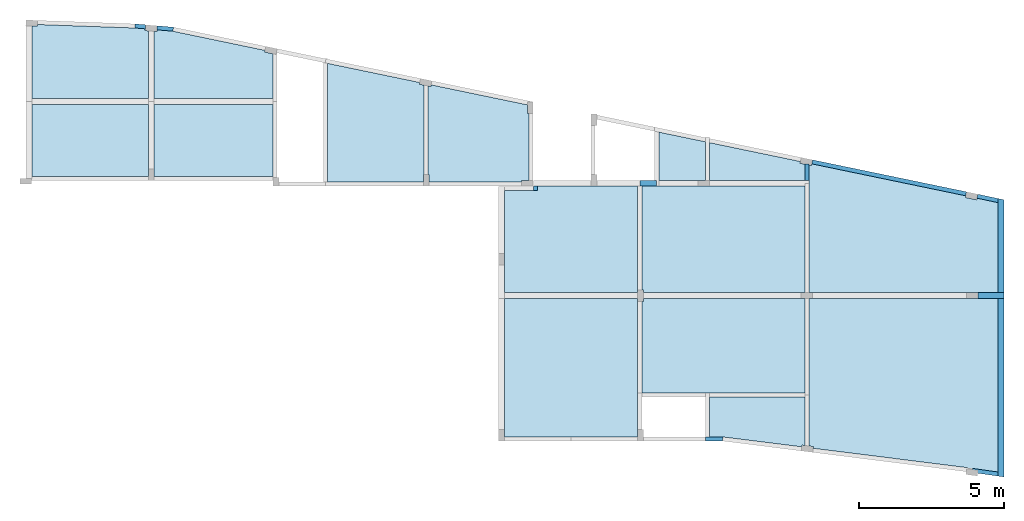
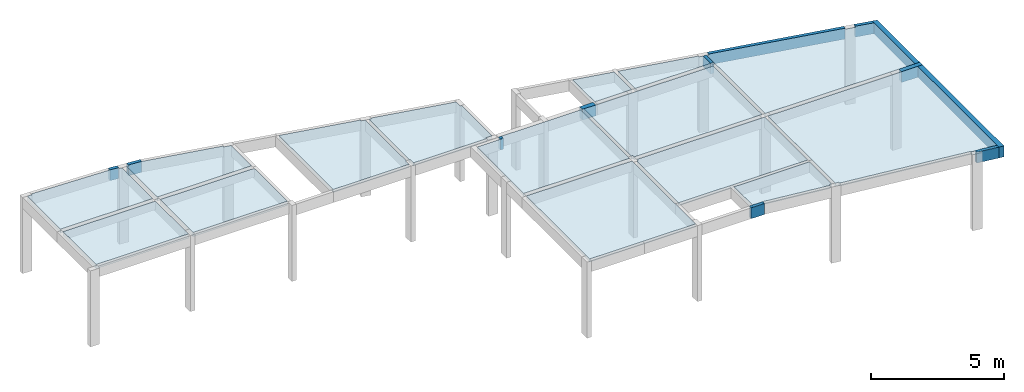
# One storey, part 2 of 2: 15 slabs, 12 beams.
"""IFC4 building model written with IfcOpenShell, lengths in centimetres."""

from ifc_helpers import new_model, si_unit, derived_unit, frame, origin, origin_with_axes, origin_2d_with_axis, place, context, project, spatial, polyline, rectangle, outline, extrude, clip, halfspace, material, element, save


model = new_model("IFC4")

# Units and contexts
model_context = context("Model", 3, precision=1e-05, world=origin_with_axes(), identifier="Body")
ifc_project = project(units=[si_unit("LENGTHUNIT", "METRE", prefix="CENTI"), si_unit("VOLUMEUNIT", "CUBIC_METRE"), si_unit("AREAUNIT", "SQUARE_METRE"), si_unit("POWERUNIT", "WATT"), si_unit("LUMINOUSFLUXUNIT", "LUMEN"), si_unit("ELECTRICCURRENTUNIT", "AMPERE"), si_unit("PRESSUREUNIT", "PASCAL", prefix="KILO"), si_unit("MASSUNIT", "GRAM", prefix="KILO"), si_unit("PLANEANGLEUNIT", "RADIAN"), derived_unit("VOLUMETRICFLOWRATEUNIT", [(si_unit("LENGTHUNIT", "METRE"), 3), (si_unit("TIMEUNIT", "SECOND"), -1)])], contexts=[model_context])

# Site, building, storey
site_placement = place(None, origin_with_axes())
site = spatial("IfcSite", under=ifc_project, at=site_placement)
building_placement = place(site_placement, origin())
building = spatial("IfcBuilding", under=site, at=building_placement)
placement_1 = place(building_placement, origin_with_axes())
placement_2 = place(placement_1, frame((0.0, 0.0, 550.0), z_axis=(0.0, 0.0, 1.0), x_axis=(1.0, 0.0, 0.0)))
placement_3 = place(placement_2, frame((0.0, 0.0, 350.0), z_axis=(0.0, 0.0, 1.0), x_axis=(1.0, 0.0, 0.0)))
placement_4 = place(placement_3, frame((0.0, 0.0, 350.0), z_axis=(0.0, 0.0, 1.0), x_axis=(1.0, 0.0, 0.0)))
storey_placement = place(placement_4, frame((0.0, 0.0, 350.0), z_axis=(0.0, 0.0, 1.0), x_axis=(1.0, 0.0, 0.0)))
storey = spatial("IfcBuildingStorey", under=building, at=storey_placement, Name="3º PAV.", CompositionType="ELEMENT", Elevation=1600.0)

# Beams
ifc_material = material(Name="Concreto")
beam_1_placement = place(storey_placement, frame((2781.96, -473.795, 0.0), z_axis=(0.0, 0.0, 1.0), x_axis=(1.0, 0.0, 0.0)))
element("IfcBeam", 1, at=beam_1_placement, inside=storey, material=ifc_material, Name="V14", context=model_context, shape_type="SolidModel", body=[
    extrude(rectangle(XDim=14.0, YDim=50.0, at=origin_2d_with_axis()), frame((0.0, -7.895, -25.0), z_axis=(0.0, 1.0, 0.0), x_axis=(1.0, 0.0, 0.0)), (0.0, 0.0, 1.0), 15.79),
])
beam_2_placement = place(storey_placement, frame((3716.6, -418.10970030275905, 0.0), z_axis=(0.0, 0.0, 1.0), x_axis=(1.0, 0.0, 0.0)))
element("IfcBeam", 2, at=beam_2_placement, inside=storey, material=ifc_material, Name="V21", context=model_context, shape_type="SolidModel", body=[
    extrude(rectangle(XDim=14.0, YDim=50.0, at=origin_2d_with_axis()), frame((0.0, -27.79029969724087, -25.0), z_axis=(0.0, 1.0, 0.0), x_axis=(1.0, 0.0, 0.0)), (0.0, 0.0, 1.0), 55.580599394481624),
])
beam_3_placement = place(storey_placement, frame((4385.6, -670.8927270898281, 0.0), z_axis=(0.0, 0.0, 1.0), x_axis=(1.0, 0.0, 0.0)))
element("IfcBeam", 3, at=beam_3_placement, inside=storey, material=ifc_material, Name="V22", context=model_context, shape_type="Clipping", body=[
    clip(extrude(rectangle(XDim=20.0, YDim=50.0, at=origin_2d_with_axis()), frame((0.0, -162.20727291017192, -25.0), z_axis=(0.0, 1.0, 0.0), x_axis=(1.0, 0.0, 0.0)), (0.0, 0.0, 1.0), 324.4145458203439), halfspace(frame((-10.0, 162.20727291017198, -50.0), z_axis=(-0.210570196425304, -0.977578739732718, 0.0), x_axis=(0.0, 0.0, -0.210570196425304)), True)),
])
beam_4_placement = place(storey_placement, frame((4385.6, -1155.4798760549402, 0.0), z_axis=(0.0, 0.0, 1.0), x_axis=(1.0, 0.0, 0.0)))
element("IfcBeam", 4, at=beam_4_placement, inside=storey, material=ifc_material, Name="V22", context=model_context, shape_type="Clipping", body=[
    clip(extrude(rectangle(XDim=20.0, YDim=50.0, at=origin_2d_with_axis()), frame((0.0, -312.37987605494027, -25.0), z_axis=(0.0, 1.0, 0.0), x_axis=(1.0, 0.0, 0.0)), (0.0, 0.0, 1.0), 624.7597521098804), halfspace(frame((-10.0, -309.55894494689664, 0.0), z_axis=(0.139664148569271, 0.990198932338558, 0.0), x_axis=(0.0, 0.0, 0.139664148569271)), True)),
])
beam_5_placement = place(storey_placement, frame((1505.3493357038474, 77.27788294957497, 0.0), z_axis=(0.0, 0.0, 1.0), x_axis=(1.0, 0.0, 0.0)))
element("IfcBeam", 5, at=beam_5_placement, inside=storey, material=ifc_material, Name="V23", context=model_context, shape_type="Clipping", body=[
    clip(extrude(rectangle(XDim=14.0, YDim=50.0, at=origin_2d_with_axis()), frame((-28.0693357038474, 2.362117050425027, -25.0), z_axis=(0.99637095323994, -0.085117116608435, 0.0), x_axis=(0.085117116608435, 0.99637095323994, 0.0)), (0.0, 0.0, 1.0), 56.343143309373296), halfspace(frame((28.66515552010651, 4.540947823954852, -50.0), z_axis=(-0.989480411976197, 0.144666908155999, 0.0), x_axis=(0.0, 0.0, -0.059920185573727)), True)),
])
beam_6_placement = place(storey_placement, frame((1419.3262803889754, 84.60237581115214, 0.0), z_axis=(0.0, 0.0, 1.0), x_axis=(1.0, 0.0, 0.0)))
element("IfcBeam", 6, at=beam_6_placement, inside=storey, material=ifc_material, Name="V23", context=model_context, shape_type="Clipping", body=[
    clip(extrude(rectangle(XDim=14.0, YDim=50.0, at=origin_2d_with_axis()), frame((-18.448841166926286, 1.562375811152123, -25.0), z_axis=(0.996365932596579, -0.085175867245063, 0.0), x_axis=(0.085175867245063, 0.996365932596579, 0.0)), (0.0, 0.0, 1.0), 36.68587973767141), halfspace(frame((-17.85261009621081, 8.536937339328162, 0.0), z_axis=(0.998167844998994, -0.060505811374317, 0.0), x_axis=(0.0, 0.0, -0.024733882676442)), True)),
])
beam_7_placement = place(storey_placement, frame((3999.875, -437.295, 0.0), z_axis=(0.0, 0.0, 1.0), x_axis=(1.0, 0.0, 0.0)))
element("IfcBeam", 7, at=beam_7_placement, inside=storey, material=ifc_material, Name="V24", context=model_context, shape_type="SolidModel", body=[
    extrude(rectangle(XDim=14.0, YDim=50.0, at=origin_2d_with_axis()), frame((-265.125, 55.025, -25.0), z_axis=(0.979134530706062, -0.203213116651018, 0.0), x_axis=(0.203213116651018, 0.979134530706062, 0.0)), (0.0, 0.0, 1.0), 541.5496883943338),
])
beam_8_placement = place(storey_placement, frame((4339.148004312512, -508.31175002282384, 0.0), z_axis=(0.0, 0.0, 1.0), x_axis=(1.0, 0.0, 0.0)))
element("IfcBeam", 8, at=beam_8_placement, inside=storey, material=ifc_material, Name="V24", context=model_context, shape_type="Clipping", body=[
    clip(extrude(rectangle(XDim=14.0, YDim=50.0, at=origin_2d_with_axis()), frame((-34.978004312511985, 7.851750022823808, -25.0), z_axis=(0.97757873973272, -0.210570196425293, 0.0), x_axis=(0.210570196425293, 0.97757873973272, 0.0)), (0.0, 0.0, 1.0), 74.5760810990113), halfspace(frame((36.451995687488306, -0.373704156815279, -50.0), z_axis=(-1.0, 0.0, 0.0), x_axis=(0.0, 0.0, 0.210570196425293)), True)),
])
beam_9_placement = place(storey_placement, frame((3397.217338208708, -1337.0556334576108, 0.0), z_axis=(0.0, 0.0, 1.0), x_axis=(1.0, 0.0, 0.0)))
element("IfcBeam", 9, at=beam_9_placement, inside=storey, material=ifc_material, Name="V25", context=model_context, shape_type="Clipping", body=[
    clip(extrude(rectangle(XDim=14.0, YDim=50.0, at=origin_2d_with_axis()), frame((-29.618689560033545, -0.005718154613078, -25.0), z_axis=(1.0, 0.000193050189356, 0.0), x_axis=(-0.000193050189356, 1.0, 0.0)), (0.0, 0.0, 1.0), 59.24008292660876), halfspace(frame((29.620040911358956, 7.005718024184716, -50.0), z_axis=(-0.998053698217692, 0.06236036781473, 0.0), x_axis=(0.0, 0.0, -0.062553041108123)), True)),
])
beam_10_placement = place(storey_placement, frame((4330.412911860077, -1451.7339453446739, 0.0), z_axis=(0.0, 0.0, 1.0), x_axis=(1.0, 0.0, 0.0)))
element("IfcBeam", 10, at=beam_10_placement, inside=storey, material=ifc_material, Name="V25", context=model_context, shape_type="Clipping", body=[
    clip(extrude(rectangle(XDim=14.0, YDim=50.0, at=origin_2d_with_axis()), frame((-44.20943909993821, 6.373483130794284, -25.0), z_axis=(0.990198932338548, -0.139664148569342, 0.0), x_axis=(0.139664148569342, 0.990198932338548, 0.0)), (0.0, 0.0, 1.0), 91.26870705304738), halfspace(frame((45.18708813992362, 0.833697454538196, -50.0), z_axis=(-1.0, 0.0, 0.0), x_axis=(0.0, 0.0, 0.139664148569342)), True)),
])
beam_11_placement = place(storey_placement, frame((3169.8, -455.9, 0.0), z_axis=(0.0, 0.0, 1.0), x_axis=(1.0, 0.0, 0.0)))
element("IfcBeam", 11, at=beam_11_placement, inside=storey, material=ifc_material, Name="V5", context=model_context, shape_type="SolidModel", body=[
    extrude(rectangle(XDim=20.0, YDim=50.0, at=origin_2d_with_axis()), frame((-29.2, 0.0, -25.0), z_axis=(1.0, 0.0, 0.0), x_axis=(0.0, 1.0, 0.0)), (0.0, 0.0, 1.0), 58.4),
])
beam_12_placement = place(storey_placement, frame((4350.6, -843.1, 0.0), z_axis=(0.0, 0.0, 1.0), x_axis=(1.0, 0.0, 0.0)))
element("IfcBeam", 12, at=beam_12_placement, inside=storey, material=ifc_material, Name="V6", context=model_context, shape_type="SolidModel", body=[
    extrude(rectangle(XDim=20.0, YDim=50.0, at=origin_2d_with_axis()), frame((-45.0, 0.0, -25.0), z_axis=(1.0, 0.0, 0.0), x_axis=(0.0, 1.0, 0.0)), (0.0, 0.0, 1.0), 90.0),
])

# Slabs
slab_1_placement = place(storey_placement, frame((1246.3, -36.349, 0.0), z_axis=(0.0, 0.0, 1.0), x_axis=(1.0, 0.0, 0.0)))
element("IfcSlab", 13, at=slab_1_placement, inside=storey, material=ifc_material, Name="L1", PredefinedType="FLOOR", context=model_context, shape_type="SolidModel", body=[
    extrude(outline(polyline([(200.799, 105.50265528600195), (190.009, 106.42865528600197), (190.523, 112.41465528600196), (154.33, 115.51865528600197), (-181.341, 127.53065528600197), (-181.56, 121.54865528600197), (-200.799, 122.25065528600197), (-200.799, -127.53134471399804), (200.799, -127.53134471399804), (200.799, 105.50265528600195), (200.799, 105.50265528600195)])), frame((0.0, 0.000344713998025, -20.0), z_axis=(0.0, 0.0, 1.0), x_axis=(1.0, 0.0, 0.0)), (0.0, 0.0, 1.0), 20.0),
])
slab_2_placement = place(storey_placement, frame((2903.5995, -649.4995, 0.0), z_axis=(0.0, 0.0, 1.0), x_axis=(1.0, 0.0, 0.0)))
element("IfcSlab", 14, at=slab_2_placement, inside=storey, material=ifc_material, Name="L10", PredefinedType="FLOOR", context=model_context, shape_type="SolidModel", body=[
    extrude(outline(polyline([(229.999, 183.6), (-114.64, 183.599), (-114.639, 174.81), (-121.639, 174.81), (-121.639, 167.81), (-230.0, 167.81), (-229.999, -183.599), (229.999, -183.599), (229.999, 183.6), (229.999, 183.6)])), frame((0.0005, -0.0005, -15.0), z_axis=(0.0, 0.0, 1.0), x_axis=(1.0, 0.0, 0.0)), (0.0, 0.0, 1.0), 15.0),
])
slab_3_placement = place(storey_placement, frame((3428.6, -649.5005, 0.0), z_axis=(0.0, 0.0, 1.0), x_axis=(1.0, 0.0, 0.0)))
element("IfcSlab", 15, at=slab_3_placement, inside=storey, material=ifc_material, Name="L11", PredefinedType="FLOOR", context=model_context, shape_type="SolidModel", body=[
    extrude(outline(polyline([(281.0, -183.599), (281.0, 183.599), (-280.999, 183.599), (-281.0, -174.099), (-275.0, -174.1), (-275.0, -183.6), (281.0, -183.599), (281.0, -183.599)])), frame((0.0, 0.0005, -15.0), z_axis=(0.0, 0.0, 1.0), x_axis=(1.0, 0.0, 0.0)), (0.0, 0.0, 1.0), 15.0),
])
slab_4_placement = place(storey_placement, frame((2903.5995, -1091.5995, 0.0), z_axis=(0.0, 0.0, 1.0), x_axis=(1.0, 0.0, 0.0)))
element("IfcSlab", 16, at=slab_4_placement, inside=storey, material=ifc_material, Name="L12", PredefinedType="FLOOR", context=model_context, shape_type="SolidModel", body=[
    extrude(outline(polyline([(-0.001, -238.4791287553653), (229.999, -238.4701287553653), (229.999, 238.49987124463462), (-229.999, 238.49887124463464), (-230.0, -238.4991287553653), (-0.001, -238.4791287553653), (-0.001, -238.4791287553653)])), frame((0.0005, -0.000371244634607, -15.0), z_axis=(0.0, 0.0, 1.0), x_axis=(1.0, 0.0, 0.0)), (0.0, 0.0, 1.0), 15.0),
])
slab_5_placement = place(storey_placement, frame((3428.6, -1015.5005, 0.0), z_axis=(0.0, 0.0, 1.0), x_axis=(1.0, 0.0, 0.0)))
element("IfcSlab", 17, at=slab_5_placement, inside=storey, material=ifc_material, Name="L13", PredefinedType="FLOOR", context=model_context, shape_type="SolidModel", body=[
    extrude(outline(polyline([(280.999, 162.399), (-275.0, 162.399), (-275.0, 151.899), (-281.0, 151.899), (-280.999, -162.4), (281.0, -162.4), (280.999, 162.399), (280.999, 162.399)])), frame((0.0, 0.0005, -15.0), z_axis=(0.0, 0.0, 1.0), x_axis=(1.0, 0.0, 0.0)), (0.0, 0.0, 1.0), 15.0),
])
slab_6_placement = place(storey_placement, frame((4049.6, -1152.0005, 0.0), z_axis=(0.0, 0.0, 1.0), x_axis=(1.0, 0.0, 0.0)))
element("IfcSlab", 18, at=slab_6_placement, inside=storey, material=ifc_material, Name="L14", PredefinedType="FLOOR", context=model_context, shape_type="SolidModel", body=[
    extrude(outline(polyline([(326.0, 298.9005819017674), (-325.999, 298.9005819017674), (-326.0, -209.26141809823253), (-310.65, -211.19941809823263), (-311.405, -217.17341809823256), (220.54, -284.07841809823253), (220.045, -287.98541809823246), (253.854, -292.2614180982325), (254.32, -288.78841809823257), (326.0, -298.90041809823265), (326.0, 298.9005819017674), (326.0, 298.9005819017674)])), frame((0.0, -8.1901767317e-05, -15.0), z_axis=(0.0, 0.0, 1.0), x_axis=(1.0, 0.0, 0.0)), (0.0, 0.0, 1.0), 15.0),
])
slab_7_placement = place(storey_placement, frame((3545.6, -1278.043, 0.0), z_axis=(0.0, 0.0, 1.0), x_axis=(1.0, 0.0, 0.0)))
element("IfcSlab", 19, at=slab_7_placement, inside=storey, material=ifc_material, Name="L15", PredefinedType="FLOOR", context=model_context, shape_type="SolidModel", body=[
    extrude(outline(polyline([(153.66, -80.14696897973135), (164.0, -81.45196897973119), (164.0, 86.14303102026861), (-163.999, 86.14303102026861), (-164.0, -52.01496897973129), (-119.199, -52.00596897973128), (-119.199, -59.00596897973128), (-118.33, -52.05596897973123), (152.904, -86.14296897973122), (153.66, -80.14696897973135), (153.66, -80.14696897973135)])), frame((0.0, -3.102026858e-05, -15.0), z_axis=(0.0, 0.0, 1.0), x_axis=(1.0, 0.0, 0.0)), (0.0, 0.0, 1.0), 15.0),
])
slab_8_placement = place(storey_placement, frame((1672.05, -45.608, 0.0), z_axis=(0.0, 0.0, 1.0), x_axis=(1.0, 0.0, 0.0)))
element("IfcSlab", 20, at=slab_8_placement, inside=storey, material=ifc_material, Name="L2", PredefinedType="FLOOR", context=model_context, shape_type="SolidModel", body=[
    extrude(outline(polyline([(204.95, 35.675796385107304), (175.729, 41.727796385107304), (176.942, 47.58879638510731), (-140.079, 113.5537963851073), (-195.364, 118.27179638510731), (-195.879, 112.2677963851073), (-204.95, 113.04579638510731), (-204.95, -118.27120361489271), (204.95, -118.27220361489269), (204.95, 35.675796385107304), (204.95, 35.675796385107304)])), frame((0.0, 0.00020361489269, -20.0), z_axis=(0.0, 0.0, 1.0), x_axis=(1.0, 0.0, 0.0)), (0.0, 0.0, 1.0), 20.0),
])
slab_9_placement = place(storey_placement, frame((2231.25, -247.3705, 0.0), z_axis=(0.0, 0.0, 1.0), x_axis=(1.0, 0.0, 0.0)))
element("IfcSlab", 21, at=slab_9_placement, inside=storey, material=ifc_material, Name="L3", PredefinedType="FLOOR", context=model_context, shape_type="SolidModel", body=[
    extrude(outline(polyline([(163.25, -204.52889450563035), (163.25, -178.52889450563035), (166.25, -178.52989450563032), (166.25, 129.38010549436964), (149.88, 132.80010549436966), (151.104, 138.66110549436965), (-166.249, 204.52910549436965), (-166.25, -204.52989450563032), (163.25, -204.52889450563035), (163.25, -204.52889450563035)])), frame((0.0, 0.000394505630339, -15.0), z_axis=(0.0, 0.0, 1.0), x_axis=(1.0, 0.0, 0.0)), (0.0, 0.0, 1.0), 15.0),
])
slab_10_placement = place(storey_placement, frame((2585.25, -284.3705, 0.0), z_axis=(0.0, 0.0, 1.0), x_axis=(1.0, 0.0, 0.0)))
element("IfcSlab", 22, at=slab_10_placement, inside=storey, material=ifc_material, Name="L4", PredefinedType="FLOOR", context=model_context, shape_type="SolidModel", body=[
    extrude(outline(polyline([(147.75, -161.52845213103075), (173.75, -161.52945213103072), (173.75, 68.87954786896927), (167.75, 68.87954786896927), (167.749, 98.73054786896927), (-163.725, 167.52854786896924), (-164.96, 161.62054786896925), (-173.75, 163.45654786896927), (-173.75, -141.52845213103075), (-170.75, -141.52845213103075), (-170.749, -167.52845213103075), (147.75, -167.52845213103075), (147.75, -161.52845213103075), (147.75, -161.52845213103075)])), frame((0.0, -4.7868969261e-05, -15.0), z_axis=(0.0, 0.0, 1.0), x_axis=(1.0, 0.0, 0.0)), (0.0, 0.0, 1.0), 15.0),
])
slab_11_placement = place(storey_placement, frame((1246.3, -307.965, 0.0), z_axis=(0.0, 0.0, 1.0), x_axis=(1.0, 0.0, 0.0)))
element("IfcSlab", 23, at=slab_11_placement, inside=storey, material=ifc_material, Name="L5", PredefinedType="FLOOR", context=model_context, shape_type="SolidModel", body=[
    extrude(outline(polyline([(200.8, -124.085), (200.799, 124.085), (-200.8, 124.084), (-200.8, -124.084), (200.8, -124.085), (200.8, -124.085)])), frame((0.0, 0.0, -20.0), z_axis=(0.0, 0.0, 1.0), x_axis=(1.0, 0.0, 0.0)), (0.0, 0.0, 1.0), 20.0),
])
slab_12_placement = place(storey_placement, frame((1672.05, -307.9645, 0.0), z_axis=(0.0, 0.0, 1.0), x_axis=(1.0, 0.0, 0.0)))
element("IfcSlab", 24, at=slab_12_placement, inside=storey, material=ifc_material, Name="L6", PredefinedType="FLOOR", context=model_context, shape_type="SolidModel", body=[
    extrude(outline(polyline([(204.95, 124.084), (-204.95, 124.085), (-204.95, -124.084), (204.949, -124.084), (204.95, 124.084), (204.95, 124.084)])), frame((0.0, -0.0005, -20.0), z_axis=(0.0, 0.0, 1.0), x_axis=(1.0, 0.0, 0.0)), (0.0, 0.0, 1.0), 20.0),
])
slab_13_placement = place(storey_placement, frame((3286.8, -362.775, 0.0), z_axis=(0.0, 0.0, 1.0), x_axis=(1.0, 0.0, 0.0)))
element("IfcSlab", 25, at=slab_13_placement, inside=storey, material=ifc_material, Name="L7", PredefinedType="FLOOR", context=model_context, shape_type="SolidModel", body=[
    extrude(outline(polyline([(-80.8, -83.12527404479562), (80.799, -83.12427404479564), (80.8, 49.56372595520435), (62.58, 53.33472595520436), (-80.8, 83.12472595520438), (-80.8, -83.12527404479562), (-80.8, -83.12527404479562)])), frame((0.0, 0.000274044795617, -15.0), z_axis=(0.0, 0.0, 1.0), x_axis=(1.0, 0.0, 0.0)), (0.0, 0.0, 1.0), 15.0),
])
slab_14_placement = place(storey_placement, frame((3545.6, -381.005, 0.0), z_axis=(0.0, 0.0, 1.0), x_axis=(1.0, 0.0, 0.0)))
element("IfcSlab", 26, at=slab_14_placement, inside=storey, material=ifc_material, Name="L8", PredefinedType="FLOOR", context=model_context, shape_type="SolidModel", body=[
    extrude(outline(polyline([(164.0, -9.317231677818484), (147.329, -5.83423167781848), (148.551, 0.013768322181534), (-164.0, 64.8947683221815), (-164.0, -64.89423167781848), (163.999, -64.89523167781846), (164.0, -9.317231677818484), (164.0, -9.317231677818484)])), frame((0.0, 0.000231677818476, -15.0), z_axis=(0.0, 0.0, 1.0), x_axis=(1.0, 0.0, 0.0)), (0.0, 0.0, 1.0), 15.0),
])
slab_15_placement = place(storey_placement, frame((4049.6, -611.1105, 0.0), z_axis=(0.0, 0.0, 1.0), x_axis=(1.0, 0.0, 0.0)))
element("IfcSlab", 27, at=slab_15_placement, inside=storey, material=ifc_material, Name="L9", PredefinedType="FLOOR", context=model_context, shape_type="SolidModel", body=[
    extrude(outline(polyline([(325.999, 88.10632626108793), (253.135, 103.79732626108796), (251.91, 97.93032626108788), (212.759, 106.11032626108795), (213.977, 111.93832626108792), (-316.277, 221.98932626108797), (-317.509, 216.09032626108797), (-326.0, 217.86332626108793), (-325.999, -221.98867373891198), (326.0, -221.98967373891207), (325.999, 88.10632626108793), (325.999, 88.10632626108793)])), frame((0.0, 0.000173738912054, -15.0), z_axis=(0.0, 0.0, 1.0), x_axis=(1.0, 0.0, 0.0)), (0.0, 0.0, 1.0), 15.0),
])

save(model, "model.ifc")
